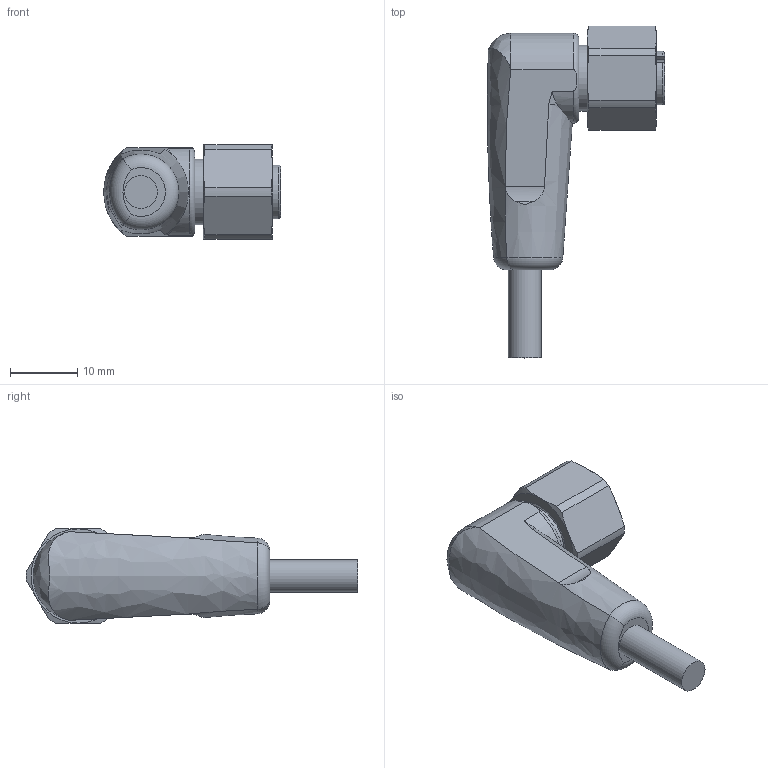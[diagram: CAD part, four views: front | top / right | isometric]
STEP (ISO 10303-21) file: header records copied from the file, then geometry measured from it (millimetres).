
FILE_DESCRIPTION( ( 'STEP AP203' ), ' ' );
FILE_NAME( 'p:/temp/worker_6928/2452_4144/app_53_02017050811415347841745192d056f_000000_00_00_000000/format_3/EVF004.stp', '2017-05-08T09:41:54', ( '' ), ( '' ), ' ', 'PARTsolutions', ' ' );
FILE_SCHEMA( ( 'CONFIG_CONTROL_DESIGN' ) );
Length unit declared in the file: millimetre
Products named in the file (1): _EVF004
Bounding box: 26.31 x 49.33 x 14 mm (x, y, z)
Volume: 6089.8 mm3; surface area: 2977.1 mm2
Topology: 1 solids, 1 shells, 59 faces, 147 edges, 95 vertices
Faces by surface type: cylinder 18, plane 18, cone 17, torus 4, bspline 2
Full cylindrical faces by diameter (mm): 4.9 x1, 9.8 x1, 10.917 x1
Entity records: 2024 total; most frequent: CARTESIAN_POINT 692, ORIENTED_EDGE 278, DIRECTION 242, EDGE_CURVE 139, AXIS2_PLACEMENT_3D 105, VERTEX_POINT 93, EDGE_LOOP 70, FACE_OUTER_BOUND 63
